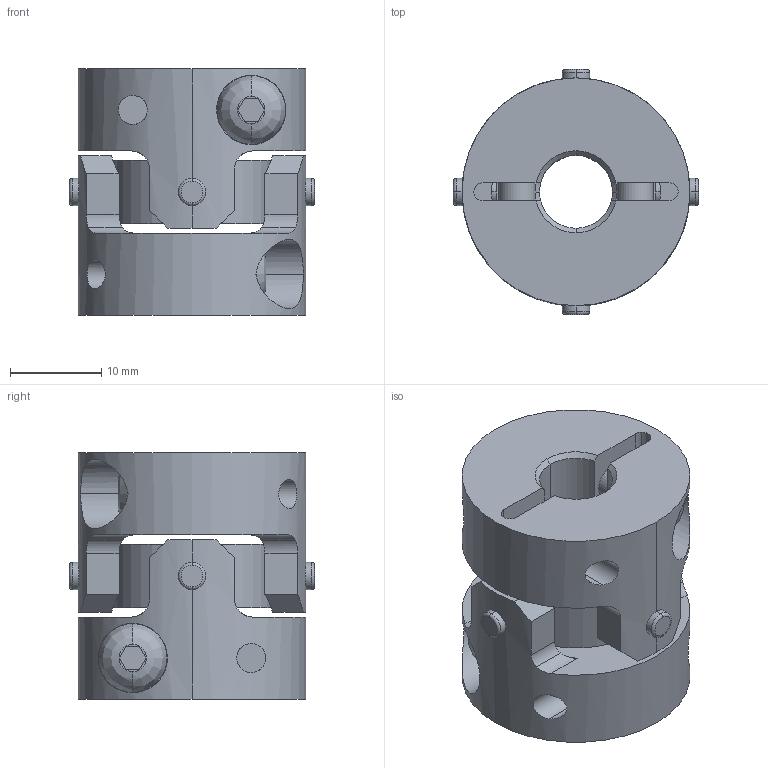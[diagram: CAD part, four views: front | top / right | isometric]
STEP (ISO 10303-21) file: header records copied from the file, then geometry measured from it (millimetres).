
FILE_DESCRIPTION((''),'2;1');
FILE_NAME('UA-25C-8×8.stp','2013-05-16T09:21:32',(''),(''),'AutoCAD STEP 2000i','AutoCAD 2000i',', , ');
FILE_SCHEMA(('CONFIG_CONTROL_DESIGN'));
Length unit declared in the file: millimetre
Products named in the file (6): UA-25C-5×5; 忣兜1; UA-2502-D05-1; BTN-M4; UA-2502-D05; UA25-SEN
Assembly tree (6 placements, depth 3):
  UA-25C-5×5
    忣兜1
    UA-2502-D05-1
      BTN-M4
    UA-2502-D05
      BTN-M4
    UA25-SEN
Bounding box: 26.89 x 26.89 x 27 mm (x, y, z)
Volume: 9043 mm3; surface area: 6456.4 mm2
Topology: 1 solids, 1 shells, 206 faces, 554 edges, 364 vertices
Faces by surface type: cylinder 96, plane 78, cone 16, bspline 8, torus 8
Entity records: 8291 total; most frequent: CARTESIAN_POINT 2975, ORIENTED_EDGE 1108, DIRECTION 1064, EDGE_CURVE 554, AXIS2_PLACEMENT_3D 409, VERTEX_POINT 364, VECTOR 246, LINE 246
